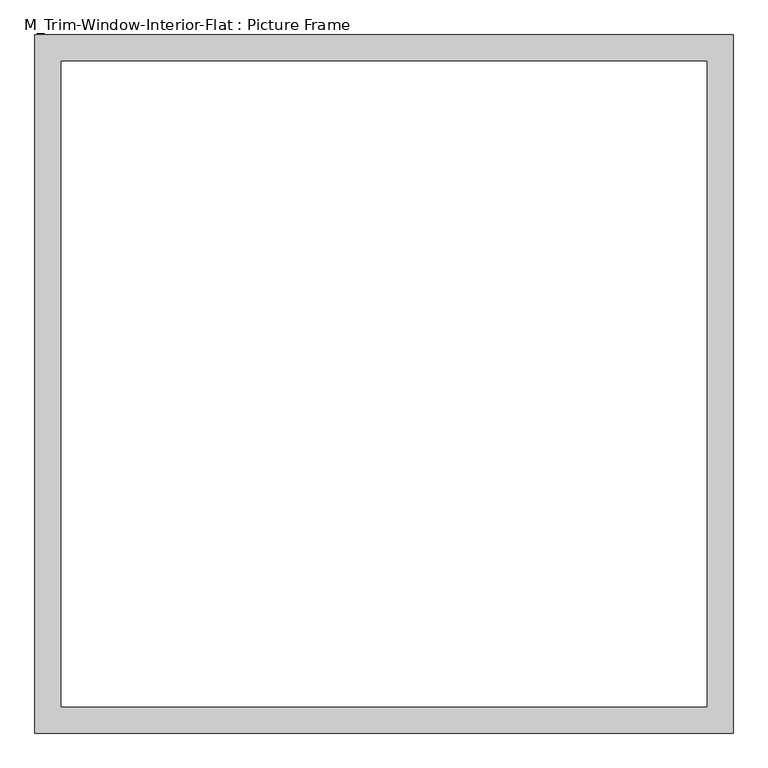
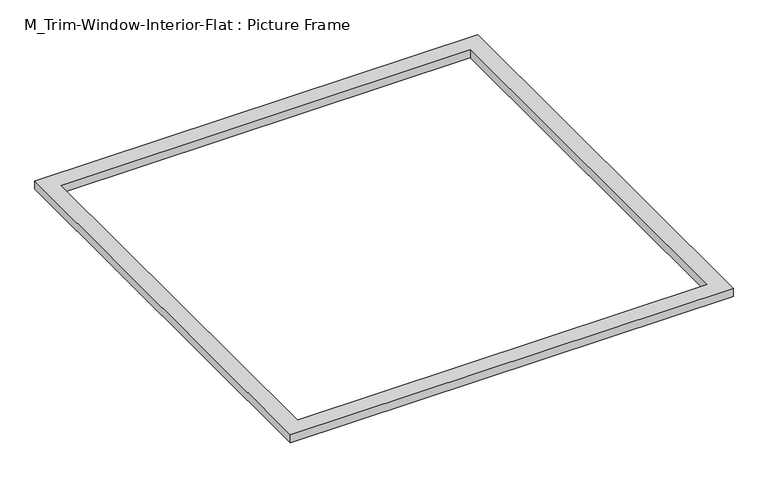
"""IFC4 building model written with IfcOpenShell, lengths in millimetres: proxy geometry, M_Trim-Window-Interior-Flat : Picture Frame."""

import ifcopenshell
import ifcopenshell.guid

model = None  # the IFC model being written
_history = None  # IfcOwnerHistory: only IFC2X3 demands one
_inside = {}  # id of a spatial element -> (the spatial element, [elements in it])
_under = {}  # id of a project, library or spatial element -> (it, [spatial elements below it])
_declared = {}  # id of a project -> (the project, [libraries it declares])
_typed = {}  # id of a type object -> (the type object, [elements of that type])
_made_of = {}  # id of a material, layer set ... -> (it, [elements and type objects made of it])


def new_model(schema):
    """Start an empty IFC model of exactly this schema.

    Asked for "IFC4X3", IfcOpenShell would pick the latest addendum, in which some entities
    have other attributes; the version numbers below select the first issue.
    IFC2X3 requires an IfcOwnerHistory on every rooted entity: one is made here for all.
    """
    global model, _history
    if schema == "IFC4X3":
        model = ifcopenshell.file(schema_version=(4, 3, 0, 0))
    else:
        model = ifcopenshell.file(schema=schema)
    _inside.clear()
    _under.clear()
    _declared.clear()
    _typed.clear()
    _made_of.clear()
    _history = None
    if model.schema == "IFC2X3":
        org = make("IfcOrganization", Name="unknown")
        user = make(
            "IfcPersonAndOrganization",
            ThePerson=make("IfcPerson", FamilyName="unknown"),
            TheOrganization=org,
        )
        app = make(
            "IfcApplication",
            ApplicationDeveloper=org,
            Version="unknown",
            ApplicationFullName="unknown",
            ApplicationIdentifier="unknown",
        )
        _history = make(
            "IfcOwnerHistory",
            OwningUser=user,
            OwningApplication=app,
            ChangeAction="ADDED",
            CreationDate=0,
        )
    return model


def make(cls, **values):
    """One entity of the class cls with the attributes given. An attribute that is None is left unset."""
    return model.create_entity(
        cls, **{name: value for name, value in values.items() if value is not None}
    )


def rooted(cls, **values):
    """An entity with a GlobalId (a new one), such as an element, a storey or a relation."""
    return make(cls, GlobalId=ifcopenshell.guid.new(), OwnerHistory=_history, **values)


def si_unit(unit_type, name, prefix=None):
    """IfcSIUnit, for example si_unit("LENGTHUNIT", "METRE", prefix="MILLI")."""
    return make("IfcSIUnit", UnitType=unit_type, Prefix=prefix, Name=name)


def assignment(units):
    """IfcUnitAssignment: the units of a project."""
    return None if units is None else make("IfcUnitAssignment", Units=units)


def point(xyz):
    """IfcCartesianPoint."""
    return None if xyz is None else make("IfcCartesianPoint", Coordinates=xyz)


def direction(xyz):
    """IfcDirection."""
    return None if xyz is None else make("IfcDirection", DirectionRatios=xyz)


def frame(location, z_axis=None, x_axis=None):
    """IfcAxis2Placement3D, a coordinate frame: its origin and axes. An axis left out is left unset."""
    return make(
        "IfcAxis2Placement3D",
        Location=point(location),
        Axis=direction(z_axis),
        RefDirection=direction(x_axis),
    )


def origin():
    """The frame at (0, 0, 0) with its axes left unset."""
    return frame((0.0, 0.0, 0.0))


def origin_with_axes():
    """The frame at (0, 0, 0) with the z axis (0, 0, 1) and the x axis (1, 0, 0) written out."""
    return frame((0.0, 0.0, 0.0), z_axis=(0.0, 0.0, 1.0), x_axis=(1.0, 0.0, 0.0))


def place(relative_to, where):
    """IfcLocalPlacement: puts the frame where relative to a parent placement (None: the world)."""
    return make(
        "IfcLocalPlacement", PlacementRelTo=relative_to, RelativePlacement=where
    )


def context(
    kind, dimensions, precision=None, world=None, true_north=None, identifier=None
):
    """IfcGeometricRepresentationContext, for example the 3D "Model" context."""
    return make(
        "IfcGeometricRepresentationContext",
        ContextIdentifier=identifier,
        ContextType=kind,
        CoordinateSpaceDimension=dimensions,
        Precision=precision,
        WorldCoordinateSystem=world,
        TrueNorth=true_north,
    )


def project(units=None, contexts=None):
    """IfcProject with its units and contexts."""
    return rooted(
        "IfcProject",
        Name="project",
        RepresentationContexts=contexts,
        UnitsInContext=assignment(units),
    )


def spatial(cls, under=None, at=None, **own):
    """A site, building, storey or space (cls), placed at a placement, below another one or the project."""
    s = rooted(cls, ObjectPlacement=at, **own)
    if under is not None:
        _under.setdefault(under.id(), (under, []))[1].append(s)
    return s


def polyline(points):
    """IfcPolyline through the points."""
    return make("IfcPolyline", Points=[point(p) for p in points])


def outline(outer, holes=None, kind="AREA"):
    """IfcArbitraryClosedProfileDef: a profile drawn as a closed curve; with holes, ...WithVoids."""
    if holes is None:
        return make("IfcArbitraryClosedProfileDef", ProfileType=kind, OuterCurve=outer)
    return make(
        "IfcArbitraryProfileDefWithVoids",
        ProfileType=kind,
        OuterCurve=outer,
        InnerCurves=holes,
    )


def extrude(swept, where, along, depth):
    """IfcExtrudedAreaSolid: the profile swept, set in the frame where, extruded along a direction by depth."""
    return make(
        "IfcExtrudedAreaSolid",
        SweptArea=swept,
        Position=where,
        ExtrudedDirection=direction(along),
        Depth=depth,
    )


def shape(context_of_items, identifier, shape_type, items):
    """IfcShapeRepresentation: the items that make up one representation, for example the "Body"."""
    return make(
        "IfcShapeRepresentation",
        ContextOfItems=context_of_items,
        RepresentationIdentifier=identifier,
        RepresentationType=shape_type,
        Items=items,
    )


def source(mapping_origin, context_of_items, identifier, shape_type, items):
    """IfcRepresentationMap: a shape defined once, which mapped items show again and again."""
    return make(
        "IfcRepresentationMap",
        MappingOrigin=mapping_origin,
        MappedRepresentation=shape(context_of_items, identifier, shape_type, items),
    )


def transform(
    local_origin,
    x_axis=None,
    y_axis=None,
    z_axis=None,
    scale=None,
    scale2=None,
    scale3=None,
    uniform=True,
):
    """IfcCartesianTransformationOperator3D, or its non-uniform kind. x_axis, y_axis, z_axis: its Axis1, 2, 3."""
    if uniform:
        return make(
            "IfcCartesianTransformationOperator3D",
            Axis1=direction(x_axis),
            Axis2=direction(y_axis),
            LocalOrigin=point(local_origin),
            Scale=scale,
            Axis3=direction(z_axis),
        )
    return make(
        "IfcCartesianTransformationOperator3DnonUniform",
        Axis1=direction(x_axis),
        Axis2=direction(y_axis),
        LocalOrigin=point(local_origin),
        Scale=scale,
        Axis3=direction(z_axis),
        Scale2=scale2,
        Scale3=scale3,
    )


def mapped(mapping_source, mapping_target):
    """IfcMappedItem: shows the shape of a source again, moved by a transform."""
    return make(
        "IfcMappedItem", MappingSource=mapping_source, MappingTarget=mapping_target
    )


def made_of(thing, what):
    """Note that an element or type object is made of a material, layer set ...; save() writes the relation."""
    if what is not None:
        _made_of.setdefault(what.id(), (what, []))[1].append(thing)
    return thing


def element(
    cls,
    number,
    at=None,
    inside=None,
    cuts=None,
    type_object=None,
    material=None,
    context=None,
    identifier="Body",
    shape_type=None,
    held_by="IfcProductDefinitionShape",
    body=None,
    shapes=None,
    **own,
):
    """One element of the class cls, such as IfcWall. Its Tag is "e" and its number.

    at: its placement. inside: the storey or other place that contains it. cuts: it is an
    opening in that element (IfcRelVoidsElement). A single representation is given by context,
    identifier, shape_type and body (its items); several are given by shapes. held_by: the class
    of the entity that holds the representations. save() writes the other relations.
    """
    e = rooted(cls, Tag="e%d" % number, ObjectPlacement=at, **own)
    if body is not None:
        shapes = [shape(context, identifier, shape_type, body)]
    if shapes is not None:
        e.Representation = make(held_by, Representations=shapes)
    if inside is not None:
        _inside.setdefault(inside.id(), (inside, []))[1].append(e)
    if cuts is not None:
        rooted(
            "IfcRelVoidsElement", RelatingBuildingElement=cuts, RelatedOpeningElement=e
        )
    if type_object is not None:
        _typed.setdefault(type_object.id(), (type_object, []))[1].append(e)
    return made_of(e, material)


def aggregate(whole, parts):
    """IfcRelAggregates: a whole, such as a stair, and the parts it consists of."""
    return rooted("IfcRelAggregates", RelatingObject=whole, RelatedObjects=parts)


def save(model, path):
    """Write the relations noted so far, then the file.

    IfcRelAggregates (storeys below a building ...), IfcRelContainedInSpatialStructure (elements
    in a storey), IfcRelDefinesByType, IfcRelAssociatesMaterial and IfcRelDeclares: one each for
    every whole, place, type object, material and project.
    """
    for whole, parts in _under.values():
        aggregate(whole, parts)
    for where, things in _inside.values():
        rooted(
            "IfcRelContainedInSpatialStructure",
            RelatedElements=things,
            RelatingStructure=where,
        )
    for kind, things in _typed.values():
        rooted("IfcRelDefinesByType", RelatedObjects=things, RelatingType=kind)
    for what, things in _made_of.values():
        rooted("IfcRelAssociatesMaterial", RelatedObjects=things, RelatingMaterial=what)
    for by, libraries in _declared.values():
        rooted("IfcRelDeclares", RelatingContext=by, RelatedDefinitions=libraries)
    model.write(path)


def m_trim_window_interior_flat_picture_frame_2e224720(model_context):
    return source(origin(), model_context, "Body", "SweptSolid", [
        extrude(outline(polyline([(797.3, 47.3), (797.3, -1547.3), (-797.3, -1547.3), (-797.3, 47.3), (797.3, 47.3)]), holes=[polyline([(737.3, -12.7), (-737.3, -12.7), (-737.3, -1487.3), (737.3, -1487.3), (737.3, -12.7)])]), origin_with_axes(), (0.0, 0.0, 1.0), 30.0),
    ])


if __name__ == "__main__":
    model = new_model("IFC4")
    model_context = context("Model", 3, world=origin())
    ifc_project = project(units=[si_unit("LENGTHUNIT", "METRE", prefix="MILLI")], contexts=[model_context])
    site = spatial("IfcSite", under=ifc_project)
    building = spatial("IfcBuilding", under=site)
    placement = place(None, origin())
    m_trim_window_interior_flat_picture_frame_shape = m_trim_window_interior_flat_picture_frame_2e224720(model_context)
    element("IfcBuildingElementProxy", 1, Name="M_Trim-Window-Interior-Flat : Picture Frame", ObjectType="M_Trim-Window-Interior-Flat : Picture Frame", at=placement, inside=building, context=model_context, shape_type="MappedRepresentation", body=[
        mapped(m_trim_window_interior_flat_picture_frame_shape, transform((0.0, 0.0, 0.0), x_axis=(1.0, 0.0, 0.0), y_axis=(0.0, 1.0, 0.0), z_axis=(0.0, 0.0, 1.0))),
    ])
    save(model, "model.ifc")
